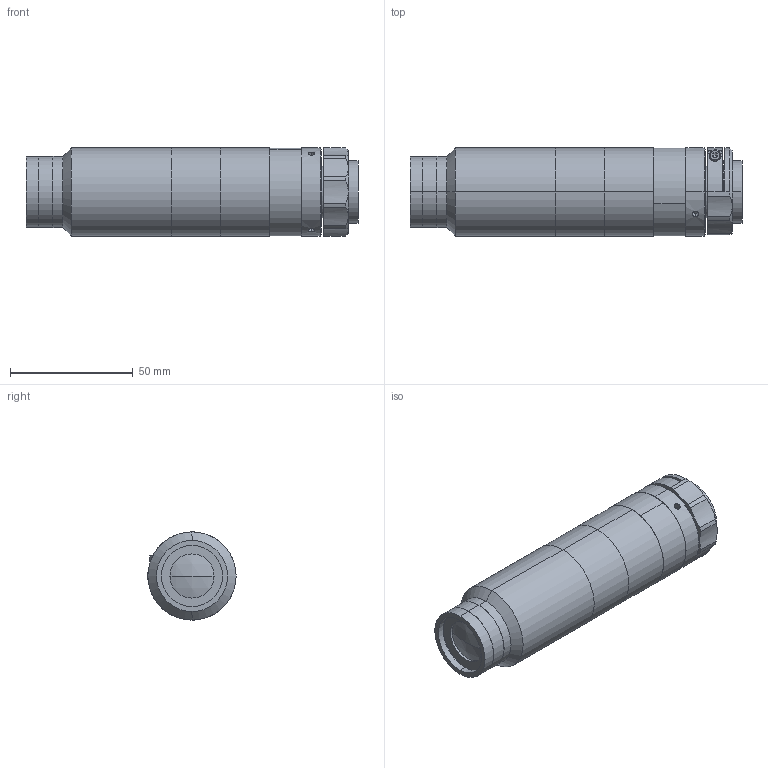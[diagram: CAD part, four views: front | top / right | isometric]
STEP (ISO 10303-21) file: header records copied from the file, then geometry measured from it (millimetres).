
FILE_DESCRIPTION (( 'STEP AP203' ), '1' );
FILE_NAME ('XF-MH07X157.STEP', '2020-08-24T07:11:14', ( 'canrill-02' ), ( '' ), 'SwSTEP 2.0', 'SolidWorks 2014', '' );
FILE_SCHEMA (( 'CONFIG_CONTROL_DESIGN' ));
Length unit declared in the file: millimetre
Products named in the file (1): XF-MH07X157
Bounding box: 135.5 x 36 x 36 mm (x, y, z)
Surface area: 21347.9 mm2 (no closed solid volume)
Topology: 0 solids, 13 shells, 105 faces, 280 edges, 190 vertices
Faces by surface type: cylinder 51, plane 35, cone 15, sphere 2, torus 2
Entity records: 3657 total; most frequent: CARTESIAN_POINT 895, DIRECTION 619, ORIENTED_EDGE 471, EDGE_CURVE 278, AXIS2_PLACEMENT_3D 258, VERTEX_POINT 190, CIRCLE 152, EDGE_LOOP 131
